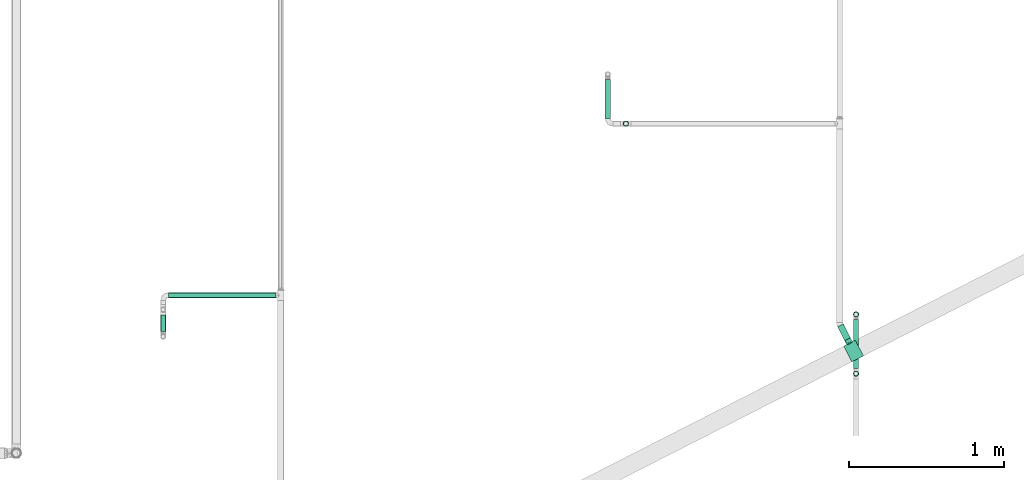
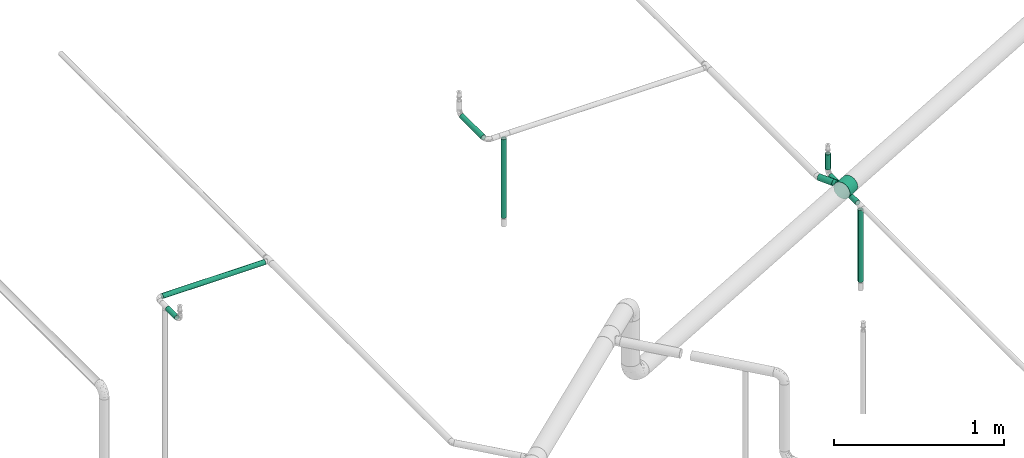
# One storey, part 17 of 94: 8 flow segments, 1 flow fitting.
"""IFC2X3 building model written with IfcOpenShell, lengths in millimetres."""

import ifcopenshell
import ifcopenshell.guid

model = None  # the IFC model being written
_history = None  # IfcOwnerHistory: only IFC2X3 demands one
_inside = {}  # id of a spatial element -> (the spatial element, [elements in it])
_under = {}  # id of a project, library or spatial element -> (it, [spatial elements below it])
_declared = {}  # id of a project -> (the project, [libraries it declares])
_typed = {}  # id of a type object -> (the type object, [elements of that type])
_made_of = {}  # id of a material, layer set ... -> (it, [elements and type objects made of it])


def new_model(schema):
    """Start an empty IFC model of exactly this schema.

    Asked for "IFC4X3", IfcOpenShell would pick the latest addendum, in which some entities
    have other attributes; the version numbers below select the first issue.
    IFC2X3 requires an IfcOwnerHistory on every rooted entity: one is made here for all.
    """
    global model, _history
    if schema == "IFC4X3":
        model = ifcopenshell.file(schema_version=(4, 3, 0, 0))
    else:
        model = ifcopenshell.file(schema=schema)
    _inside.clear()
    _under.clear()
    _declared.clear()
    _typed.clear()
    _made_of.clear()
    _history = None
    if model.schema == "IFC2X3":
        org = make("IfcOrganization", Name="unknown")
        user = make(
            "IfcPersonAndOrganization",
            ThePerson=make("IfcPerson", FamilyName="unknown"),
            TheOrganization=org,
        )
        app = make(
            "IfcApplication",
            ApplicationDeveloper=org,
            Version="unknown",
            ApplicationFullName="unknown",
            ApplicationIdentifier="unknown",
        )
        _history = make(
            "IfcOwnerHistory",
            OwningUser=user,
            OwningApplication=app,
            ChangeAction="ADDED",
            CreationDate=0,
        )
    return model


def make(cls, **values):
    """One entity of the class cls with the attributes given. An attribute that is None is left unset."""
    return model.create_entity(
        cls, **{name: value for name, value in values.items() if value is not None}
    )


def entity(cls, *values):
    """Any entity or typed value of the class cls, its attributes in the order of the schema. None: left unset."""
    e = model.create_entity(cls)
    for i, value in enumerate(values):
        if value is not None:
            e[i] = value
    return e


def rooted(cls, **values):
    """An entity with a GlobalId (a new one), such as an element, a storey or a relation."""
    return make(cls, GlobalId=ifcopenshell.guid.new(), OwnerHistory=_history, **values)


def si_unit(unit_type, name, prefix=None):
    """IfcSIUnit, for example si_unit("LENGTHUNIT", "METRE", prefix="MILLI")."""
    return make("IfcSIUnit", UnitType=unit_type, Prefix=prefix, Name=name)


def converted_unit(unit_type, name, factor, base, dimensions=None, offset=None):
    """IfcConversionBasedUnit, such as the inch: factor (a typed value) times the base unit."""
    return make(
        "IfcConversionBasedUnit"
        if offset is None
        else "IfcConversionBasedUnitWithOffset",
        ConversionOffset=offset,
        Dimensions=None
        if dimensions is None
        else entity("IfcDimensionalExponents", *dimensions),
        UnitType=unit_type,
        Name=name,
        ConversionFactor=make(
            "IfcMeasureWithUnit", ValueComponent=factor, UnitComponent=base
        ),
    )


def derived_unit(unit_type, elements):
    """IfcDerivedUnit: a product of units, each with its exponent."""
    return make(
        "IfcDerivedUnit",
        Elements=[
            make("IfcDerivedUnitElement", Unit=unit, Exponent=power)
            for unit, power in elements
        ],
        UnitType=unit_type,
    )


def assignment(units):
    """IfcUnitAssignment: the units of a project."""
    return None if units is None else make("IfcUnitAssignment", Units=units)


def point(xyz):
    """IfcCartesianPoint."""
    return None if xyz is None else make("IfcCartesianPoint", Coordinates=xyz)


def direction(xyz):
    """IfcDirection."""
    return None if xyz is None else make("IfcDirection", DirectionRatios=xyz)


def frame(location, z_axis=None, x_axis=None):
    """IfcAxis2Placement3D, a coordinate frame: its origin and axes. An axis left out is left unset."""
    return make(
        "IfcAxis2Placement3D",
        Location=point(location),
        Axis=direction(z_axis),
        RefDirection=direction(x_axis),
    )


def frame_2d(location, x_axis=None):
    """IfcAxis2Placement2D, a coordinate frame in the plane: its origin and x axis."""
    return make(
        "IfcAxis2Placement2D", Location=point(location), RefDirection=direction(x_axis)
    )


def origin_with_axes():
    """The frame at (0, 0, 0) with the z axis (0, 0, 1) and the x axis (1, 0, 0) written out."""
    return frame((0.0, 0.0, 0.0), z_axis=(0.0, 0.0, 1.0), x_axis=(1.0, 0.0, 0.0))


def origin_2d_with_axis():
    """The frame at (0, 0) in the plane with the x axis (1, 0) written out."""
    return frame_2d((0.0, 0.0), x_axis=(1.0, 0.0))


def place(relative_to, where):
    """IfcLocalPlacement: puts the frame where relative to a parent placement (None: the world)."""
    return make(
        "IfcLocalPlacement", PlacementRelTo=relative_to, RelativePlacement=where
    )


def context(
    kind, dimensions, precision=None, world=None, true_north=None, identifier=None
):
    """IfcGeometricRepresentationContext, for example the 3D "Model" context."""
    return make(
        "IfcGeometricRepresentationContext",
        ContextIdentifier=identifier,
        ContextType=kind,
        CoordinateSpaceDimension=dimensions,
        Precision=precision,
        WorldCoordinateSystem=world,
        TrueNorth=true_north,
    )


def subcontext(parent, identifier, kind, view, scale=None):
    """IfcGeometricRepresentationSubContext, for example "Body" below "Model"."""
    return make(
        "IfcGeometricRepresentationSubContext",
        ContextIdentifier=identifier,
        ContextType=kind,
        ParentContext=parent,
        TargetScale=scale,
        TargetView=view,
    )


def project(units=None, contexts=None):
    """IfcProject with its units and contexts."""
    return rooted(
        "IfcProject",
        Name="project",
        RepresentationContexts=contexts,
        UnitsInContext=assignment(units),
    )


def spatial(cls, under=None, at=None, **own):
    """A site, building, storey or space (cls), placed at a placement, below another one or the project."""
    s = rooted(cls, ObjectPlacement=at, **own)
    if under is not None:
        _under.setdefault(under.id(), (under, []))[1].append(s)
    return s


def profile(cls, at=None, kind="AREA", **sizes):
    """A parametric profile (cls). Its sizes go by their IFC names, for example OverallWidth=200.0."""
    return make(cls, ProfileType=kind, Position=at, **sizes)


def hollow_circle(**sizes):
    """IfcCircleHollowProfileDef."""
    return profile("IfcCircleHollowProfileDef", **sizes)


def extrude(swept, where, along, depth):
    """IfcExtrudedAreaSolid: the profile swept, set in the frame where, extruded along a direction by depth."""
    return make(
        "IfcExtrudedAreaSolid",
        SweptArea=swept,
        Position=where,
        ExtrudedDirection=direction(along),
        Depth=depth,
    )


def faces_of(points, faces, orient=None, outer=None):
    """IfcFace entities. A face is a list of loops; a loop is a list of indices into points, from 0.

    orient and outer hold one flag for each loop. By default every Orientation is true, the
    first loop of a face is its IfcFaceOuterBound and the others are IfcFaceBound.
    """
    made = []
    for i, loops in enumerate(faces):
        bounds = []
        for j, loop in enumerate(loops):
            is_outer = j == 0 if outer is None else outer[i][j]
            bounds.append(
                make(
                    "IfcFaceOuterBound" if is_outer else "IfcFaceBound",
                    Bound=make("IfcPolyLoop", Polygon=[points[k] for k in loop]),
                    Orientation=True if orient is None else orient[i][j],
                )
            )
        made.append(make("IfcFace", Bounds=bounds))
    return made


def open_shell(faces, orient=None, outer=None):
    """The faces of one IfcOpenShell. surface_model builds it on its shared points."""
    return ("IfcOpenShell", faces, orient, outer)


def surface_model(cls, points, shells):
    """IfcFaceBasedSurfaceModel or IfcShellBasedSurfaceModel (cls): surfaces that need not close."""
    shared = [point(p) for p in points]
    made = [make(c, CfsFaces=faces_of(shared, fs, o, b)) for c, fs, o, b in shells]
    if cls == "IfcFaceBasedSurfaceModel":
        return make(cls, FbsmFaces=made)
    return make(cls, SbsmBoundary=made)


def shape(context_of_items, identifier, shape_type, items):
    """IfcShapeRepresentation: the items that make up one representation, for example the "Body"."""
    return make(
        "IfcShapeRepresentation",
        ContextOfItems=context_of_items,
        RepresentationIdentifier=identifier,
        RepresentationType=shape_type,
        Items=items,
    )


def source(mapping_origin, context_of_items, identifier, shape_type, items):
    """IfcRepresentationMap: a shape defined once, which mapped items show again and again."""
    return make(
        "IfcRepresentationMap",
        MappingOrigin=mapping_origin,
        MappedRepresentation=shape(context_of_items, identifier, shape_type, items),
    )


def transform(
    local_origin,
    x_axis=None,
    y_axis=None,
    z_axis=None,
    scale=None,
    scale2=None,
    scale3=None,
    uniform=True,
):
    """IfcCartesianTransformationOperator3D, or its non-uniform kind. x_axis, y_axis, z_axis: its Axis1, 2, 3."""
    if uniform:
        return make(
            "IfcCartesianTransformationOperator3D",
            Axis1=direction(x_axis),
            Axis2=direction(y_axis),
            LocalOrigin=point(local_origin),
            Scale=scale,
            Axis3=direction(z_axis),
        )
    return make(
        "IfcCartesianTransformationOperator3DnonUniform",
        Axis1=direction(x_axis),
        Axis2=direction(y_axis),
        LocalOrigin=point(local_origin),
        Scale=scale,
        Axis3=direction(z_axis),
        Scale2=scale2,
        Scale3=scale3,
    )


def mapped(mapping_source, mapping_target):
    """IfcMappedItem: shows the shape of a source again, moved by a transform."""
    return make(
        "IfcMappedItem", MappingSource=mapping_source, MappingTarget=mapping_target
    )


def made_of(thing, what):
    """Note that an element or type object is made of a material, layer set ...; save() writes the relation."""
    if what is not None:
        _made_of.setdefault(what.id(), (what, []))[1].append(thing)
    return thing


def type_object(cls, material=None, **own):
    """A type object (cls), such as IfcWallType, which elements share."""
    return made_of(rooted(cls, **own), material)


def element(
    cls,
    number,
    at=None,
    inside=None,
    cuts=None,
    type_object=None,
    material=None,
    context=None,
    identifier="Body",
    shape_type=None,
    held_by="IfcProductDefinitionShape",
    body=None,
    shapes=None,
    **own,
):
    """One element of the class cls, such as IfcWall. Its Tag is "e" and its number.

    at: its placement. inside: the storey or other place that contains it. cuts: it is an
    opening in that element (IfcRelVoidsElement). A single representation is given by context,
    identifier, shape_type and body (its items); several are given by shapes. held_by: the class
    of the entity that holds the representations. save() writes the other relations.
    """
    e = rooted(cls, Tag="e%d" % number, ObjectPlacement=at, **own)
    if body is not None:
        shapes = [shape(context, identifier, shape_type, body)]
    if shapes is not None:
        e.Representation = make(held_by, Representations=shapes)
    if inside is not None:
        _inside.setdefault(inside.id(), (inside, []))[1].append(e)
    if cuts is not None:
        rooted(
            "IfcRelVoidsElement", RelatingBuildingElement=cuts, RelatedOpeningElement=e
        )
    if type_object is not None:
        _typed.setdefault(type_object.id(), (type_object, []))[1].append(e)
    return made_of(e, material)


def aggregate(whole, parts):
    """IfcRelAggregates: a whole, such as a stair, and the parts it consists of."""
    return rooted("IfcRelAggregates", RelatingObject=whole, RelatedObjects=parts)


def save(model, path):
    """Write the relations noted so far, then the file.

    IfcRelAggregates (storeys below a building ...), IfcRelContainedInSpatialStructure (elements
    in a storey), IfcRelDefinesByType, IfcRelAssociatesMaterial and IfcRelDeclares: one each for
    every whole, place, type object, material and project.
    """
    for whole, parts in _under.values():
        aggregate(whole, parts)
    for where, things in _inside.values():
        rooted(
            "IfcRelContainedInSpatialStructure",
            RelatedElements=things,
            RelatingStructure=where,
        )
    for kind, things in _typed.values():
        rooted("IfcRelDefinesByType", RelatedObjects=things, RelatingType=kind)
    for what, things in _made_of.values():
        rooted("IfcRelAssociatesMaterial", RelatedObjects=things, RelatingMaterial=what)
    for by, libraries in _declared.values():
        rooted("IfcRelDeclares", RelatingContext=by, RelatedDefinitions=libraries)
    model.write(path)


model = new_model("IFC2X3")

# Units and contexts
model_context = context("Model", 3, precision=0.01, world=frame((0.0, 4.29681676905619e-09, 0.0)), true_north=direction((4.01073788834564e-13, 1.0)))
plan_context = context("Plan", 3, precision=0.01, world=frame((0.0, 4.29681676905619e-09, 0.0)), true_north=direction((4.01073788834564e-13, 1.0)))
body_context = subcontext(model_context, "Body", "Model", "MODEL_VIEW")
ifc_project = project(units=[converted_unit("PLANEANGLEUNIT", "DEGREE", entity("IfcPositiveLengthMeasure", 0.0174532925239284), si_unit("PLANEANGLEUNIT", "RADIAN"), dimensions=[0, 0, 0, 0, 0, 0, 0]), si_unit("AREAUNIT", "SQUARE_METRE"), si_unit("LENGTHUNIT", "METRE", prefix="MILLI"), si_unit("MASSUNIT", "GRAM", prefix="KILO"), si_unit("POWERUNIT", "WATT"), si_unit("PRESSUREUNIT", "PASCAL", prefix="KILO"), si_unit("FORCEUNIT", "NEWTON", prefix="KILO"), si_unit("ELECTRICVOLTAGEUNIT", "VOLT"), si_unit("ELECTRICCURRENTUNIT", "AMPERE"), si_unit("THERMODYNAMICTEMPERATUREUNIT", "DEGREE_CELSIUS"), si_unit("TIMEUNIT", "SECOND"), si_unit("VOLUMEUNIT", "CUBIC_METRE"), derived_unit("LINEARVELOCITYUNIT", [(si_unit("LENGTHUNIT", "METRE"), 1), (si_unit("TIMEUNIT", "SECOND"), -1)]), derived_unit("VOLUMETRICFLOWRATEUNIT", [(si_unit("VOLUMEUNIT", "CUBIC_METRE"), 1), (si_unit("TIMEUNIT", "SECOND"), -1)]), derived_unit("THERMALTRANSMITTANCEUNIT", [(si_unit("POWERUNIT", "WATT"), 1), (si_unit("THERMODYNAMICTEMPERATUREUNIT", "KELVIN"), -1), (si_unit("AREAUNIT", "SQUARE_METRE"), -1)]), derived_unit("SOUNDPRESSUREUNIT", [(si_unit("PRESSUREUNIT", "PASCAL"), 1)])], contexts=[model_context, plan_context])

# Site, building, storey
site_placement = place(None, frame((0.0, -4.29681676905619e-09, 0.0), z_axis=(0.0, 0.0, 1.0), x_axis=(1.0, 0.0, 0.0)))
site = spatial("IfcSite", under=ifc_project, at=site_placement, CompositionType="ELEMENT")
building_placement = place(site_placement, frame((0.0, 4.29681676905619e-09, 0.0), z_axis=(0.0, 0.0, 1.0), x_axis=(1.0, 0.0, 0.0)))
building = spatial("IfcBuilding", under=site, at=building_placement, Name="mc-building", CompositionType="ELEMENT")
storey_placement = place(building_placement, frame((0.0, 0.0, 210900.0), z_axis=(0.0, 0.0, 1.0), x_axis=(1.0, 0.0, 0.0)))
storey = spatial("IfcBuildingStorey", under=building, at=storey_placement, Name="Nivå F", CompositionType="ELEMENT", Elevation=210900.0)

# Flow fitting
pipe_fitting_type = type_object("IfcPipeFittingType", Name="magi_pipe_fe_tee_centric_90_NOR", PredefinedType="JUNCTION")
shared_shape_1 = source(origin_with_axes(), body_context, "Body", "SurfaceModel", [
    surface_model("IfcShellBasedSurfaceModel", [(-42.4, 0.0, -57.2), (-42.4, -14.80445, -55.25096), (-42.4, 14.80445, -55.25096), (-42.4, 28.6, -49.53665), (-42.4, 40.44651, -40.44651), (-42.4, 55.25096, -14.80445), (-42.4, 49.53665, -28.6), (-42.4, -28.6, -49.53665), (-42.4, -40.44651, -40.44651), (-42.4, -49.53665, -28.6), (-42.4, -55.25096, -14.80445), (-42.4, -57.2, 0.0), (-42.4, -28.6, 49.53665), (-42.4, 49.53665, 28.6), (-42.4, 55.25096, 14.80445), (-42.4, 57.2, 0.0), (-42.4, 40.44651, 40.44651), (-42.4, 14.80445, 55.25096), (-42.4, 28.6, 49.53665), (-42.4, 0.0, 57.2), (-42.4, -55.25096, 14.80445), (-42.4, -49.53665, 28.6), (-42.4, -40.44651, 40.44651), (-42.4, -14.80445, 55.25096), (42.4, 14.80445, -55.25096), (42.4, -14.80445, -55.25096), (42.4, 0.0, -57.2), (42.4, 40.44651, -40.44651), (42.4, 28.6, -49.53665), (42.4, 49.53665, -28.6), (42.4, 55.25096, -14.80445), (42.4, -40.44651, -40.44651), (42.4, -28.6, -49.53665), (42.4, -49.53665, -28.6), (42.4, -55.25096, -14.80445), (42.4, -57.2, 0.0), (42.4, -28.6, 49.53665), (42.4, 57.2, 0.0), (42.4, 55.25096, 14.80445), (42.4, 49.53665, 28.6), (42.4, 0.0, 57.2), (42.4, 28.6, 49.53665), (42.4, 40.44651, 40.44651), (42.4, 14.80445, 55.25096), (42.4, -49.53665, 28.6), (42.4, -55.25096, 14.80445), (42.4, -40.44651, 40.44651), (42.4, -14.80445, 55.25096), (42.4, -56.22548, 7.40222), (21.2, -57.2, 0.0), (16.22454, -55.5485, 13.64567), (19.90462, -56.73265, 7.29699), (3.70812, -53.25552, 20.87319), (10.63496, -54.18028, 18.33951), (-16.23029, -55.55018, 13.63883), (-42.4, -56.22548, 7.40222), (-19.90518, -56.73285, 7.29545), (-21.2, -57.2, 0.0), (-10.63671, -54.18062, 18.33849), (-3.71383, -53.25592, 20.87217), (-42.4, -56.22548, -7.40222), (-19.90518, -56.73285, -7.29545), (16.22454, -55.5485, -13.64567), (42.4, -56.22548, -7.40222), (19.90462, -56.73265, -7.29699), (10.63496, -54.18028, -18.33951), (3.70812, -53.25552, -20.87319), (-3.71383, -53.25592, -20.87217), (-10.63671, -54.18062, -18.33849), (-16.23029, -55.55018, -13.63883), (14.99066, -85.8, -14.99066), (0.0, -85.8, -21.2), (5.48696, -85.8, -20.47763), (10.6, -85.8, -18.35974), (18.35974, -85.8, -10.6), (20.47763, -85.8, -5.48696), (-21.2, -85.8, 0.0), (-10.6, -85.8, 18.35974), (-5.48696, -85.8, -20.47763), (-14.99066, -85.8, -14.99066), (-10.6, -85.8, -18.35974), (-18.35974, -85.8, -10.6), (-20.47763, -85.8, -5.48696), (20.47763, -85.8, 5.48696), (18.35974, -85.8, 10.6), (10.6, -85.8, 18.35974), (14.99066, -85.8, 14.99066), (0.0, -85.8, 21.2), (5.48696, -85.8, 20.47763), (-14.99066, -85.8, 14.99066), (-18.35974, -85.8, 10.6), (-20.47763, -85.8, 5.48696), (-5.48696, -85.8, 20.47763), (21.2, -85.8, 0.0), (-20.55259, -56.96643, 3.64772), (-7.17527, -53.71827, 19.60533), (7.17154, -53.7179, 19.60635), (20.55231, -56.96633, 3.64849), (-0.00286, -53.25572, 20.87268), (20.55231, -56.96633, -3.64849), (7.17154, -53.7179, -19.60635), (-0.00286, -53.25572, -20.87268), (-7.17527, -53.71827, -19.60533), (-20.55259, -56.96643, -3.64772)], [open_shell([[[0, 1, 2]], [[3, 2, 4]], [[5, 6, 4]], [[2, 5, 4]], [[5, 2, 1]], [[7, 8, 1]], [[9, 1, 8]], [[10, 11, 9]], [[1, 9, 11]], [[12, 1, 11]], [[12, 5, 1]], [[13, 14, 15]], [[16, 13, 15]], [[17, 18, 16]], [[15, 17, 16]], [[19, 17, 15]], [[20, 21, 11]], [[21, 22, 11]], [[23, 19, 12]], [[22, 12, 11]], [[12, 19, 15]], [[15, 5, 12]], [[24, 25, 26]], [[27, 24, 28]], [[27, 29, 30]], [[27, 30, 24]], [[25, 24, 30]], [[25, 31, 32]], [[25, 30, 31]], [[30, 33, 31]], [[30, 34, 33]], [[35, 34, 30]], [[30, 36, 35]], [[37, 38, 39]], [[30, 39, 36]], [[40, 39, 41]], [[41, 39, 42]], [[40, 41, 43]], [[35, 44, 45]], [[46, 44, 35]], [[36, 40, 47]], [[35, 36, 46]], [[39, 40, 36]], [[37, 39, 30]], [[35, 48, 49]], [[50, 51, 48]], [[48, 45, 50]], [[52, 44, 21]], [[44, 53, 45]], [[53, 44, 52]], [[45, 53, 50]], [[44, 46, 22]], [[54, 55, 56]], [[57, 55, 11]], [[57, 56, 55]], [[54, 20, 55]], [[58, 59, 21]], [[58, 21, 20]], [[59, 52, 21]], [[44, 22, 21]], [[58, 20, 54]], [[49, 48, 51]], [[46, 12, 22]], [[19, 47, 40]], [[23, 36, 47]], [[17, 40, 43]], [[39, 38, 14]], [[16, 41, 42]], [[13, 42, 39]], [[43, 41, 18]], [[15, 38, 37]], [[12, 36, 23]], [[23, 47, 19]], [[17, 19, 40]], [[43, 18, 17]], [[18, 41, 16]], [[13, 16, 42]], [[14, 13, 39]], [[38, 15, 14]], [[36, 12, 46]], [[15, 37, 30]], [[30, 29, 5]], [[27, 6, 29]], [[1, 26, 25]], [[2, 28, 24]], [[26, 0, 24]], [[28, 4, 27]], [[32, 7, 25]], [[57, 60, 61]], [[6, 5, 29]], [[15, 30, 5]], [[27, 4, 6]], [[4, 28, 3]], [[3, 28, 2]], [[0, 2, 24]], [[1, 0, 26]], [[25, 7, 1]], [[32, 8, 7]], [[9, 31, 33]], [[62, 63, 64]], [[65, 66, 33]], [[33, 34, 65]], [[9, 33, 66]], [[35, 49, 63]], [[62, 34, 63]], [[64, 63, 49]], [[34, 62, 65]], [[67, 68, 9]], [[8, 31, 9]], [[68, 10, 9]], [[9, 66, 67]], [[61, 60, 69]], [[60, 10, 69]], [[60, 57, 11]], [[69, 10, 68]], [[31, 8, 32]], [[70, 71, 72]], [[70, 72, 73]], [[70, 74, 75]], [[70, 75, 71]], [[76, 71, 77]], [[78, 79, 80]], [[78, 71, 79]], [[81, 76, 82]], [[79, 71, 81]], [[71, 76, 81]], [[71, 75, 77]], [[83, 84, 75]], [[84, 85, 75]], [[85, 77, 75]], [[85, 84, 86]], [[87, 85, 88]], [[76, 89, 90]], [[91, 76, 90]], [[77, 87, 92]], [[77, 89, 76]], [[85, 87, 77]], [[75, 93, 83]], [[91, 94, 76]], [[87, 59, 92]], [[95, 77, 92]], [[95, 58, 77]], [[85, 96, 88]], [[91, 56, 94]], [[97, 93, 49]], [[56, 91, 90]], [[94, 57, 76]], [[56, 90, 54]], [[77, 58, 89]], [[92, 59, 95]], [[89, 58, 54]], [[89, 54, 90]], [[87, 52, 98]], [[85, 53, 96]], [[86, 53, 85]], [[51, 84, 83]], [[86, 84, 50]], [[52, 87, 88]], [[96, 52, 88]], [[98, 59, 87]], [[53, 86, 50]], [[50, 84, 51]], [[93, 97, 83]], [[97, 51, 83]], [[75, 99, 93]], [[70, 62, 74]], [[100, 65, 73]], [[75, 64, 99]], [[74, 64, 75]], [[65, 70, 73]], [[99, 49, 93]], [[64, 74, 62]], [[72, 66, 100]], [[65, 62, 70]], [[71, 67, 101]], [[80, 102, 78]], [[103, 76, 57]], [[102, 80, 68]], [[100, 73, 72]], [[103, 61, 82]], [[79, 68, 80]], [[61, 81, 82]], [[69, 79, 81]], [[67, 71, 78]], [[102, 67, 78]], [[101, 66, 71]], [[68, 79, 69]], [[69, 81, 61]], [[76, 103, 82]], [[71, 66, 72]]])]),
])
flow_fitting_placement = place(storey_placement, frame((720372.83969, 443398.43126, 3650.0), z_axis=(0.0, 0.0, 1.0), x_axis=(-0.891006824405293, -0.453989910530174, 0.0)))
element("IfcFlowFitting", 1, at=flow_fitting_placement, inside=storey, type_object=pipe_fitting_type, Name="magi_pipe_fe_tee_centric_90_NOR", context=body_context, shape_type="MappedRepresentation", body=[
    mapped(shared_shape_1, transform((0.0, 0.0, 0.0), scale=1.0)),
])

# Flow segments
pipe_segment_type = type_object("IfcPipeSegmentType", Name="Stålrør normaltykke", PredefinedType="RIGIDSEGMENT")
shared_shape_2 = source(origin_with_axes(), body_context, "Body", "SweptSolid", [
    extrude(hollow_circle(Radius=16.9, WallThickness=2.0, at=origin_2d_with_axis()), frame((0.0, 0.0, 0.0), z_axis=(1.0, 0.0, 0.0), x_axis=(0.0, 1.0, 0.0)), (0.0, 0.0, 1.0), 106.7),
])
flow_segment_1_placement = place(storey_placement, frame((715905.60992, 443632.94027, 4200.0), z_axis=(0.0, 0.0, 1.0), x_axis=(0.0, -1.0, 0.0)))
element("IfcFlowSegment", 2, at=flow_segment_1_placement, inside=storey, type_object=pipe_segment_type, Name="Stålrør normaltykke", context=body_context, shape_type="MappedRepresentation", body=[
    mapped(shared_shape_2, transform((0.0, 0.0, 0.0), scale=1.0)),
])
shared_shape_3 = source(origin_with_axes(), body_context, "Body", "SweptSolid", [
    extrude(hollow_circle(Radius=16.9, WallThickness=2.0, at=origin_2d_with_axis()), frame((0.0, 0.0, 0.0), z_axis=(1.0, 0.0, 0.0), x_axis=(0.0, 1.0, 0.0)), (0.0, 0.0, 1.0), 252.9),
])
flow_segment_2_placement = place(storey_placement, frame((718782.13546, 444903.50099, 3650.0), z_axis=(0.0, 0.0, 1.0), x_axis=(0.0, 1.0, 0.0)))
element("IfcFlowSegment", 3, at=flow_segment_2_placement, inside=storey, type_object=pipe_segment_type, Name="Stålrør normaltykke", context=body_context, shape_type="MappedRepresentation", body=[
    mapped(shared_shape_3, transform((0.0, 0.0, 0.0), scale=1.0)),
])
shared_shape_4 = source(origin_with_axes(), body_context, "Body", "SweptSolid", [
    extrude(hollow_circle(Radius=16.9, WallThickness=2.0, at=origin_2d_with_axis()), frame((0.0, 0.0, 0.0), z_axis=(1.0, 0.0, 0.0), x_axis=(0.0, 1.0, 0.0)), (0.0, 0.0, 1.0), 108.8),
])
flow_segment_3_placement = place(storey_placement, frame((720388.90308, 443636.12104, 3633.79999999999), z_axis=(-1.0, 0.0, 0.0), x_axis=(0.0, 0.0, 1.0)))
element("IfcFlowSegment", 4, at=flow_segment_3_placement, inside=storey, type_object=pipe_segment_type, Name="Stålrør normaltykke", context=body_context, shape_type="MappedRepresentation", body=[
    mapped(shared_shape_4, transform((0.0, 0.0, 0.0), scale=1.0, scale2=1.0, scale3=1.0, uniform=False)),
])
shared_shape_5 = source(origin_with_axes(), body_context, "Body", "SweptSolid", [
    extrude(hollow_circle(Radius=16.9, WallThickness=2.0, at=origin_2d_with_axis()), frame((0.0, 0.0, 0.0), z_axis=(1.0, 0.0, 0.0), x_axis=(0.0, 1.0, 0.0)), (0.0, 0.0, 1.0), 515.3),
])
flow_segment_4_placement = place(storey_placement, frame((720388.90308, 443252.252, 3574.64999999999), z_axis=(1.0, 0.0, 0.0), x_axis=(0.0, 0.0, -1.0)))
element("IfcFlowSegment", 5, at=flow_segment_4_placement, inside=storey, type_object=pipe_segment_type, Name="Stålrør normaltykke", context=body_context, shape_type="MappedRepresentation", body=[
    mapped(shared_shape_5, transform((0.0, 0.0, 0.0), scale=1.0)),
])
shared_shape_6 = source(origin_with_axes(), body_context, "Body", "SweptSolid", [
    extrude(hollow_circle(Radius=21.2, WallThickness=2.0, at=origin_2d_with_axis()), frame((0.0, 0.0, 0.0), z_axis=(1.0, 0.0, 0.0), x_axis=(0.0, 1.0, 0.0)), (0.0, 0.0, 1.0), 101.2),
])
flow_segment_5_placement = place(storey_placement, frame((720333.88731, 443474.87962, 3650.0), z_axis=(0.0, 0.0, 1.0), x_axis=(-0.453989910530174, 0.891006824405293, 0.0)))
element("IfcFlowSegment", 6, at=flow_segment_5_placement, inside=storey, type_object=pipe_segment_type, Name="Stålrør normaltykke", context=body_context, shape_type="MappedRepresentation", body=[
    mapped(shared_shape_6, transform((0.0, 0.0, 0.0), scale=1.0)),
])
shared_shape_7 = source(origin_with_axes(), body_context, "Body", "SweptSolid", [
    extrude(hollow_circle(Radius=16.9, WallThickness=2.0, at=origin_2d_with_axis()), frame((0.0, 0.0, 0.0), z_axis=(1.0, 0.0, 0.0), x_axis=(0.0, 1.0, 0.0)), (0.0, 0.0, 1.0), 565.3),
])
flow_segment_6_placement = place(storey_placement, frame((718899.7625, 444869.70099, 3624.64999999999), z_axis=(-0.000893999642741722, -0.99999960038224, 0.0), x_axis=(0.0, 0.0, -1.0)))
element("IfcFlowSegment", 7, at=flow_segment_6_placement, inside=storey, type_object=pipe_segment_type, Name="Stålrør normaltykke", context=body_context, shape_type="MappedRepresentation", body=[
    mapped(shared_shape_7, transform((0.0, 0.0, 0.0), scale=1.0)),
])
shared_shape_8 = source(origin_with_axes(), body_context, "Body", "SweptSolid", [
    extrude(hollow_circle(Radius=16.9, WallThickness=2.0, at=origin_2d_with_axis()), frame((0.0, 0.0, 0.0), z_axis=(1.0, 0.0, 0.0), x_axis=(0.0, 1.0, 0.0)), (0.0, 0.0, 1.0), 316.3),
])
flow_segment_7_placement = place(storey_placement, frame((720388.90308, 443602.32104, 3600.0), z_axis=(0.0, 0.0, 1.0), x_axis=(0.0, -1.0, 0.0)))
element("IfcFlowSegment", 8, at=flow_segment_7_placement, inside=storey, type_object=pipe_segment_type, Name="Stålrør normaltykke", context=body_context, shape_type="MappedRepresentation", body=[
    mapped(shared_shape_8, transform((0.0, 0.0, 0.0), scale=1.0)),
])
shared_shape_9 = source(origin_with_axes(), body_context, "Body", "SweptSolid", [
    extrude(hollow_circle(Radius=16.9, WallThickness=2.0, at=origin_2d_with_axis()), frame((0.0, 0.0, 0.0), z_axis=(1.0, 0.0, 0.0), x_axis=(0.0, 1.0, 0.0)), (0.0, 0.0, 1.0), 695.6),
])
flow_segment_8_placement = place(storey_placement, frame((716635.00992, 443760.1901, 4200.0), z_axis=(0.0, 0.0, 1.0), x_axis=(-1.0, 0.0, 0.0)))
element("IfcFlowSegment", 9, at=flow_segment_8_placement, inside=storey, type_object=pipe_segment_type, Name="Stålrør normaltykke", context=body_context, shape_type="MappedRepresentation", body=[
    mapped(shared_shape_9, transform((0.0, 0.0, 0.0), scale=1.0)),
])

save(model, "model.ifc")
